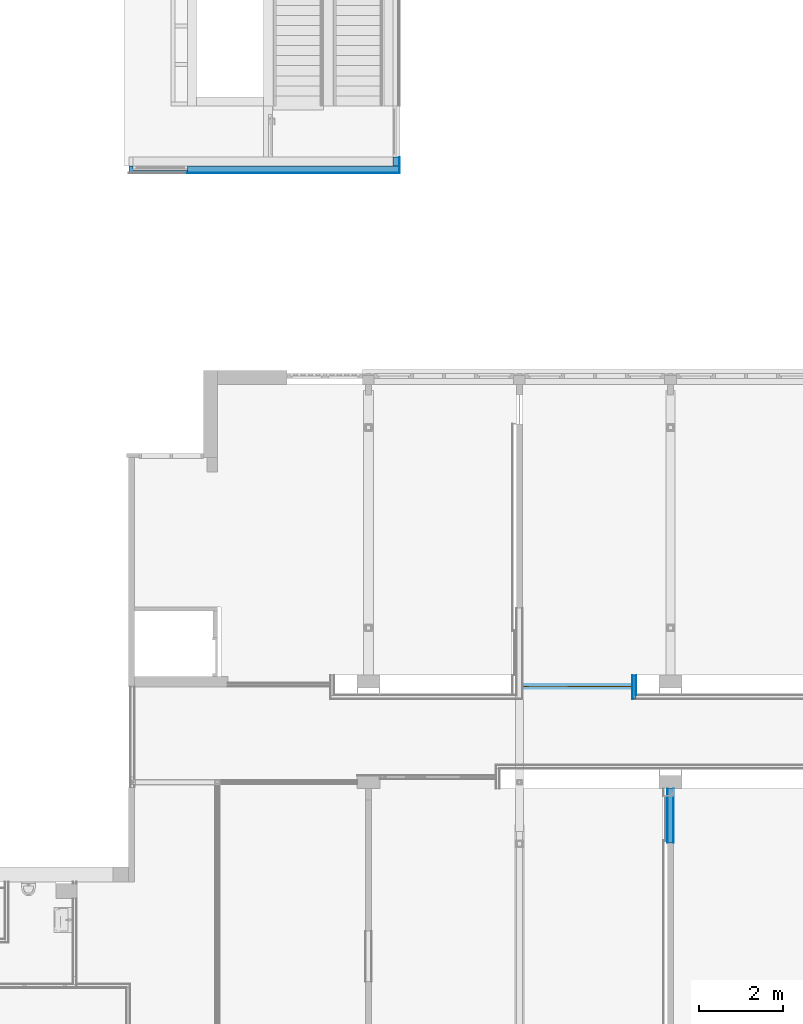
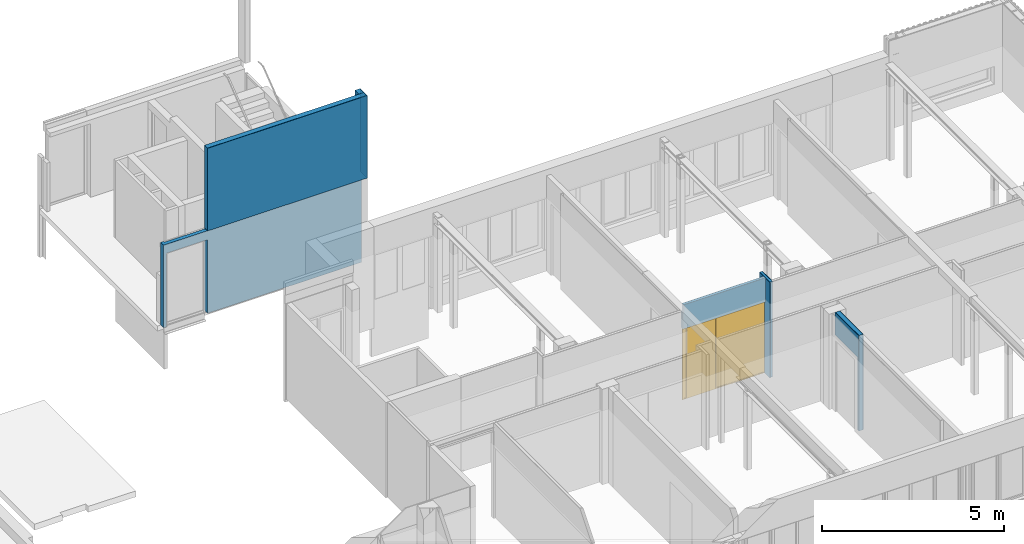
# One storey, part 67 of 99: 13 building element parts, 1 door, 3 openings, 6 elements without a shape of their own, plus 3 elements that do not belong to this part.
"""IFC2X3 building model written with IfcOpenShell, lengths in millimetres."""

from ifc_helpers import new_model, entity, si_unit, converted_unit, derived_unit, money_unit, direction, frame, origin_with_axes, place, context, subcontext, project, spatial, open_shell, faceted_brep, surface_model, material, type_object, element, fill, aggregate, save


model = new_model("IFC2X3")

# Units and contexts
model_context = context("Model", 3, precision=0.01, world=origin_with_axes(), true_north=direction((0.0, 1.0)))
body_context = subcontext(model_context, "Body", "Model", "MODEL_VIEW")
ifc_project = project(units=[si_unit("LENGTHUNIT", "METRE", prefix="MILLI"), si_unit("AREAUNIT", "SQUARE_METRE"), si_unit("VOLUMEUNIT", "CUBIC_METRE"), converted_unit("PLANEANGLEUNIT", "DEGREE", entity("IfcPlaneAngleMeasure", 0.0174532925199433), si_unit("PLANEANGLEUNIT", "RADIAN"), dimensions=[0, 0, 0, 0, 0, 0, 0]), money_unit("EUR"), converted_unit("TIMEUNIT", "Year", entity("IfcTimeMeasure", 31557600.0), si_unit("TIMEUNIT", "SECOND"), dimensions=[0, 0, 1, 0, 0, 0, 0]), si_unit("MASSUNIT", "GRAM", prefix="KILO"), si_unit("THERMODYNAMICTEMPERATUREUNIT", "DEGREE_CELSIUS"), si_unit("LUMINOUSINTENSITYUNIT", "LUMEN"), si_unit("ENERGYUNIT", "JOULE", prefix="MEGA"), derived_unit("THERMALCONDUCTANCEUNIT", [(si_unit("POWERUNIT", "WATT"), 1), (si_unit("LENGTHUNIT", "METRE"), -1), (si_unit("THERMODYNAMICTEMPERATUREUNIT", "KELVIN"), -1)]), derived_unit("SPECIFICHEATCAPACITYUNIT", [(si_unit("ENERGYUNIT", "JOULE"), 1), (si_unit("MASSUNIT", "GRAM", prefix="KILO"), -1), (si_unit("THERMODYNAMICTEMPERATUREUNIT", "KELVIN"), -1)]), derived_unit("MASSDENSITYUNIT", [(si_unit("MASSUNIT", "GRAM", prefix="KILO"), 1), (si_unit("VOLUMEUNIT", "CUBIC_METRE"), -1)])], contexts=[model_context])

# Site, building, storey
site_placement = place(None, origin_with_axes())
site = spatial("IfcSite", under=ifc_project, at=site_placement, Name="Site", CompositionType="ELEMENT")
building_placement = place(site_placement, origin_with_axes())
building = spatial("IfcBuilding", under=site, at=building_placement, Name="Naam gebouw", CompositionType="ELEMENT")
storey_placement = place(building_placement, frame((0.0, 0.0, 7650.0), z_axis=(0.0, 0.0, 1.0), x_axis=(1.0, 0.0, 0.0)))
storey = spatial("IfcBuildingStorey", under=building, at=storey_placement, Name="2e verdieping N", CompositionType="ELEMENT", Elevation=7650.0)

# Door
door_style = type_object("IfcDoorStyle", Name="D1 zl2 27", ConstructionType="NOTDEFINED", OperationType="USERDEFINED", ParameterTakesPrecedence=False, Sizeable=False)
wall_5_placement = place(storey_placement, frame((39674.99999999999, 20305.91242510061, 0.0), z_axis=(0.0, 0.0, 1.0), x_axis=(1.0, 0.0, 0.0)))
opening_2_placement = place(wall_5_placement, frame((1305.000000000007, 0.0, 0.0), z_axis=(0.0, 0.0, 1.0), x_axis=(1.0, 0.0, 0.0)))
door_placement = place(opening_2_placement, frame((-1305.000000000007, 0.0, 0.0), z_axis=(0.0, 0.0, 1.0), x_axis=(1.0, 0.0, 0.0)))
door = element("IfcDoor", 1, at=door_placement, inside=storey, type_object=door_style, Name="_Merk-x", ObjectType="DOOR", OverallHeight=2400.0, OverallWidth=2610.0, context=body_context, shape_type="SurfaceModel", body=[
    faceted_brep([(2610.000000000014, 9.99999999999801, 0.0), (2610.000000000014, -10.00000000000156, 0.0), (2580.000000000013, -10.00000000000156, 0.0), (2580.000000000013, 9.99999999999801, 0.0), (2610.000000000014, 9.99999999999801, 2369.999999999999), (2610.000000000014, -10.00000000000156, 2369.999999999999), (2580.000000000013, -10.00000000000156, 2369.999999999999), (2580.000000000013, -10.00000000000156, 30.00000000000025), (2580.000000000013, 9.99999999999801, 30.00000000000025), (2580.000000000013, 9.99999999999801, 2369.999999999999)], [[[0, 1, 2, 3]], [[4, 5, 1, 0]], [[1, 5, 6, 7, 2]], [[3, 2, 7, 8]], [[0, 3, 8, 9, 4]], [[9, 6, 5, 4]], [[8, 7, 6, 9]]]),
    faceted_brep([(1060.000000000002, -9.000000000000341, 0.0), (1060.000000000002, -10.00000000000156, 0.0), (1060.000000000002, -10.00000000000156, 2369.999999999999), (1060.000000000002, -9.000000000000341, 2369.999999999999), (1076.999999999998, -9.000000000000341, 0.0), (1076.999999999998, 9.99999999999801, 0.0), (1089.999999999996, 9.99999999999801, 0.0), (1089.999999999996, -10.00000000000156, 0.0), (1089.999999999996, -10.00000000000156, 30.00000000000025), (1089.999999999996, -10.00000000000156, 2369.999999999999), (1076.999999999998, -9.000000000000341, 2369.999999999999), (1089.999999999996, 9.99999999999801, 2369.999999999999), (1076.999999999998, 9.99999999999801, 2369.999999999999), (1089.999999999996, 9.99999999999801, 30.00000000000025)], [[[0, 1, 2, 3]], [[4, 5, 6, 7, 1, 0]], [[7, 8, 9, 2, 1]], [[10, 3, 2, 9, 11, 12]], [[10, 4, 0, 3]], [[12, 5, 4, 10]], [[12, 11, 13, 6, 5]], [[6, 13, 8, 7]], [[13, 11, 9, 8]]]),
    faceted_brep([(2580.000000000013, 9.99999999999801, 30.00000000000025), (2580.000000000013, -10.00000000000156, 30.00000000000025), (2580.000000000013, -10.00000000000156, 0.0), (2580.000000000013, 9.99999999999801, 0.0), (1089.999999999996, 9.99999999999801, 30.00000000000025), (1089.999999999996, -10.00000000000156, 30.00000000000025), (1089.999999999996, -10.00000000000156, 0.0), (1089.999999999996, 9.99999999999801, 0.0)], [[[0, 1, 2, 3]], [[4, 5, 1, 0]], [[1, 5, 6, 2]], [[3, 2, 6, 7]], [[0, 3, 7, 4]], [[7, 6, 5, 4]]]),
    faceted_brep([(0.0, 9.99999999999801, 0.0), (0.0, -10.00000000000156, 0.0), (0.0, -10.00000000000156, 2369.999999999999), (0.0, 9.99999999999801, 2369.999999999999), (30.00000000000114, 9.99999999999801, 0.0), (30.00000000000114, -10.00000000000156, 0.0), (30.00000000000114, -10.00000000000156, 30.00000000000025), (30.00000000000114, -10.00000000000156, 2369.999999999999), (30.00000000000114, 9.99999999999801, 2369.999999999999), (30.00000000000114, 9.99999999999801, 30.00000000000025)], [[[0, 1, 2, 3]], [[4, 5, 1, 0]], [[1, 5, 6, 7, 2]], [[3, 2, 7, 8]], [[0, 3, 8, 9, 4]], [[9, 6, 5, 4]], [[8, 7, 6, 9]]]),
    faceted_brep([(143.0000000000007, -9.000000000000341, 2369.999999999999), (143.0000000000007, 9.99999999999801, 2369.999999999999), (130.0000000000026, 9.99999999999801, 2369.999999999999), (130.0000000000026, -10.00000000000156, 2369.999999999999), (159.9999999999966, -10.00000000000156, 2369.999999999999), (159.9999999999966, -9.000000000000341, 2369.999999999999), (143.0000000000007, -9.000000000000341, 0.0), (143.0000000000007, 9.99999999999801, 0.0), (130.0000000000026, 9.99999999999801, 0.0), (130.0000000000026, 9.99999999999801, 30.00000000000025), (130.0000000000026, -10.00000000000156, 30.00000000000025), (159.9999999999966, -10.00000000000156, 0.0), (130.0000000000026, -10.00000000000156, 0.0), (159.9999999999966, -9.000000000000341, 0.0)], [[[0, 1, 2, 3, 4, 5]], [[0, 6, 7, 1]], [[7, 8, 9, 2, 1]], [[2, 9, 10, 3]], [[11, 4, 3, 10, 12]], [[5, 4, 11, 13]], [[5, 13, 6, 0]], [[6, 13, 11, 12, 8, 7]], [[9, 8, 12, 10]]]),
    faceted_brep([(130.0000000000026, 9.99999999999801, 30.00000000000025), (130.0000000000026, -10.00000000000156, 30.00000000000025), (130.0000000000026, -10.00000000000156, 0.0), (130.0000000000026, 9.99999999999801, 0.0), (30.00000000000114, 9.99999999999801, 30.00000000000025), (30.00000000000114, -10.00000000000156, 30.00000000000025), (30.00000000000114, -10.00000000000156, 0.0), (30.00000000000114, 9.99999999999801, 0.0)], [[[0, 1, 2, 3]], [[4, 5, 1, 0]], [[1, 5, 6, 2]], [[3, 2, 6, 7]], [[0, 3, 7, 4]], [[7, 6, 5, 4]]]),
    faceted_brep([(1076.999999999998, 9.99999999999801, 2387.0), (143.0000000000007, 9.99999999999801, 2387.0), (143.0000000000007, 9.99999999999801, 2369.999999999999), (130.0000000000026, 9.99999999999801, 2369.999999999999), (30.00000000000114, 9.99999999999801, 2369.999999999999), (0.0, 9.99999999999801, 2369.999999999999), (0.0, 9.99999999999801, 2400.0), (2610.000000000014, 9.99999999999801, 2400.0), (2610.000000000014, 9.99999999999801, 2369.999999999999), (2580.000000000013, 9.99999999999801, 2369.999999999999), (1089.999999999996, 9.99999999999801, 2369.999999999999), (1076.999999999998, 9.99999999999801, 2369.999999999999), (1076.999999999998, -9.000000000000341, 2387.0), (143.0000000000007, -9.000000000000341, 2387.0), (143.0000000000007, -9.000000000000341, 2369.999999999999), (159.9999999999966, -9.000000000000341, 2369.999999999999), (159.9999999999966, -10.00000000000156, 2369.999999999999), (130.0000000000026, -10.00000000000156, 2369.999999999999), (30.00000000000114, -10.00000000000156, 2369.999999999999), (0.0, -10.00000000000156, 2369.999999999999), (0.0, -10.00000000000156, 2400.0), (2610.000000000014, -10.00000000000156, 2400.0), (2610.000000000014, -10.00000000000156, 2369.999999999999), (2580.000000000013, -10.00000000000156, 2369.999999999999), (1089.999999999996, -10.00000000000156, 2369.999999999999), (1076.999999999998, -9.000000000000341, 2369.999999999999), (1060.000000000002, -10.00000000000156, 2369.999999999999)], [[[0, 1, 2, 3, 4, 5, 6, 7, 8, 9, 10, 11]], [[0, 12, 13, 1]], [[1, 13, 14, 2]], [[14, 15, 16, 17, 18, 4, 3, 2]], [[5, 4, 18, 19]], [[6, 5, 19, 20]], [[7, 6, 20, 21]], [[8, 7, 21, 22]], [[9, 8, 22, 23]], [[10, 9, 23, 24]], [[25, 11, 10, 24, 26, 16, 15]], [[11, 25, 12, 0]], [[14, 13, 12, 25, 15]], [[18, 17, 16, 26, 24, 23, 22, 21, 20, 19]]]),
    faceted_brep([(143.0000000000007, 0.9999999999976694, 0.0), (1076.999999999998, 0.9999999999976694, 0.0), (1076.999999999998, -9.000000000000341, 0.0), (143.0000000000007, -9.000000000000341, 0.0), (143.0000000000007, 0.9999999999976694, 2387.0), (1076.999999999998, 0.9999999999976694, 2387.0), (1076.999999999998, -9.000000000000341, 2387.0), (143.0000000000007, -9.000000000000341, 2387.0)], [[[0, 1, 2, 3]], [[0, 4, 5, 1]], [[1, 5, 6, 2]], [[3, 2, 6, 7]], [[4, 0, 3, 7]], [[5, 4, 7, 6]]]),
    surface_model("IfcShellBasedSurfaceModel", [(2580.000000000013, 8.999999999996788, 30.00000000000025), (1089.999999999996, 8.999999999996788, 30.00000000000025), (1089.999999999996, 8.999999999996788, 2369.999999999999), (2580.000000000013, 8.999999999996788, 2369.999999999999)], [open_shell([[[0, 1, 2, 3]]])]),
    surface_model("IfcShellBasedSurfaceModel", [(2580.000000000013, 0.9999999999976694, 30.00000000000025), (2580.000000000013, 0.9999999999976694, 2369.999999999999), (1089.999999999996, 0.9999999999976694, 2369.999999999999), (1089.999999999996, 0.9999999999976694, 30.00000000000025)], [open_shell([[[0, 1, 2, 3]]])]),
    surface_model("IfcShellBasedSurfaceModel", [(130.0000000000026, 8.999999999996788, 30.00000000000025), (30.00000000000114, 8.999999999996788, 30.00000000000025), (30.00000000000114, 8.999999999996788, 2369.999999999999), (130.0000000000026, 8.999999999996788, 2369.999999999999)], [open_shell([[[0, 1, 2, 3]]])]),
    surface_model("IfcShellBasedSurfaceModel", [(130.0000000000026, 0.9999999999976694, 30.00000000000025), (130.0000000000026, 0.9999999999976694, 2369.999999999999), (30.00000000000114, 0.9999999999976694, 2369.999999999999), (30.00000000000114, 0.9999999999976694, 30.00000000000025)], [open_shell([[[0, 1, 2, 3]]])]),
])

# Wall, building element parts
wall_type_1 = type_object("IfcWallType", Name="Basic Wall:41_WA_stucwerk op iso 170mm", PredefinedType="STANDARD")
wall_1_placement = place(storey_placement, frame((36665.50000002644, 32925.91242631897, 1039.999999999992), z_axis=(0.0, 0.0, 1.0), x_axis=(0.0, -1.0, 0.0)))
wall_1 = element("IfcWall", 2, at=wall_1_placement, inside=storey, type_object=wall_type_1, Name="Basic Wall:41_WA_stucwerk op iso 170mm")
ifc_material_1 = material(Name="Verflaag ral 7044  Zijdengrijs Isostuc")
building_element_part_1_placement = place(wall_1_placement, origin_with_axes())
building_element_part_1 = element("IfcBuildingElementPart", 3, at=building_element_part_1_placement, material=ifc_material_1, Name="Verflaag ral 7044  Zijdengrijs Isostuc", context=body_context, shape_type="Brep", body=[
    faceted_brep([(384.0000000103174, 85.50000001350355, 0.0), (384.0000000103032, 84.50000001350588, 0.0), (0.0, 84.50000001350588, 0.0), (0.0, 85.50000001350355, 0.0), (384.0000000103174, 85.50000001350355, 2770.000000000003), (384.0000000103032, 84.50000001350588, 2770.000000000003), (0.0, 84.50000001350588, 2770.000000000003), (0.0, 85.50000001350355, 2770.000000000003)], [[[0, 1, 2, 3]], [[1, 0, 4, 5]], [[1, 5, 6, 2]], [[7, 3, 2, 6]], [[4, 0, 3, 7]], [[5, 4, 7, 6]]]),
])
ifc_material_2 = material(Name="stucwerk - gevel gebouw V RAL 7044")
building_element_part_2_placement = place(wall_1_placement, origin_with_axes())
building_element_part_2 = element("IfcBuildingElementPart", 4, at=building_element_part_2_placement, material=ifc_material_2, Name="stucwerk - gevel gebouw V RAL 7044", context=body_context, shape_type="Brep", body=[
    faceted_brep([(374.0000000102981, 84.50000001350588, 0.0), (374.0000000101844, 74.50000001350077, 0.0), (0.0, 74.50000001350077, 0.0), (0.0, 84.50000001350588, 0.0), (374.0000000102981, 84.50000001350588, 2770.000000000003), (374.0000000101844, 74.50000001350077, 2770.000000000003), (0.0, 74.50000001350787, 2770.000000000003), (0.0, 84.50000001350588, 2770.000000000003)], [[[0, 1, 2, 3]], [[1, 0, 4, 5]], [[1, 5, 6, 2]], [[7, 3, 2, 6]], [[4, 0, 3, 7]], [[5, 4, 7, 6]]]),
])

# Wall, building element part
wall_2_placement = place(storey_placement, frame((31685.01028266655, 32626.41242629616, 1039.999999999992), z_axis=(0.0, 0.0, 1.0), x_axis=(1.0, 0.0, 0.0)))
wall_2 = element("IfcWall", 5, at=wall_2_placement, inside=storey, type_object=wall_type_1, Name="Basic Wall:41_WA_stucwerk op iso 170mm")
building_element_part_3_placement = place(wall_2_placement, origin_with_axes())
building_element_part_3 = element("IfcBuildingElementPart", 6, at=building_element_part_3_placement, material=ifc_material_2, Name="stucwerk - gevel gebouw V RAL 7044", context=body_context, shape_type="Brep", body=[
    faceted_brep([(5064.989717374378, -84.49999986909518, 0.0), (9.876544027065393e-10, -84.49999992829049, 0.0), (8.704148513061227e-10, -74.49999992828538, 0.0), (5064.989717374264, -74.49999986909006, 0.0), (5064.989717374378, -84.49999986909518, 2770.000000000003), (9.876544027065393e-10, -84.49999992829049, 2770.000000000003), (8.704148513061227e-10, -74.49999992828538, 2770.000000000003), (5064.989717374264, -74.49999986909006, 2770.000000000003)], [[[0, 1, 2, 3]], [[4, 5, 1, 0]], [[2, 1, 5, 6]], [[3, 2, 6, 7]], [[3, 7, 4, 0]], [[7, 6, 5, 4]]]),
])

# Building element part
ifc_material_3 = material(Name="isolatie_080_1-100")
building_element_part_4_placement = place(wall_1_placement, origin_with_axes())
building_element_part_4 = element("IfcBuildingElementPart", 7, at=building_element_part_4_placement, material=ifc_material_3, Name="isolatie_080_1-100", context=body_context, shape_type="Brep", body=[
    faceted_brep([(214.0000000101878, 74.50000001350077, 0.0), (214.000000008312, -85.49999998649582, 0.0), (0.0, -85.49999998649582, 0.0), (0.0, 74.50000001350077, 0.0), (214.0000000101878, 74.50000001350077, 2770.000000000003), (214.000000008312, -85.49999998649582, 2770.000000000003), (0.0, -85.49999998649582, 2770.000000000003), (0.0, 74.50000001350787, 2770.000000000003)], [[[0, 1, 2, 3]], [[1, 0, 4, 5]], [[1, 5, 6, 2]], [[7, 3, 2, 6]], [[4, 0, 3, 7]], [[5, 4, 7, 6]]]),
])

aggregate(wall_1, [building_element_part_1, building_element_part_2, building_element_part_4])

building_element_part_5_placement = place(wall_2_placement, origin_with_axes())
building_element_part_5 = element("IfcBuildingElementPart", 8, at=building_element_part_5_placement, material=ifc_material_3, Name="isolatie_080_1-100", context=body_context, shape_type="Brep", body=[
    faceted_brep([(5054.98971737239, 85.50000013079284, 0.0), (5054.989717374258, -74.49999986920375, 0.0), (8.704148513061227e-10, -74.49999992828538, 0.0), (-9.983125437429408e-10, 85.50000007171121, 0.0), (5054.98971737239, 85.50000013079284, 2770.000000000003), (5054.989717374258, -74.49999986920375, 2770.000000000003), (8.704148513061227e-10, -74.49999992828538, 2770.000000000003), (-9.983125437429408e-10, 85.50000007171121, 2770.000000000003)], [[[0, 1, 2, 3]], [[1, 0, 4, 5]], [[1, 5, 6, 2]], [[7, 3, 2, 6]], [[4, 0, 3, 7]], [[5, 4, 7, 6]]]),
])

building_element_part_6_placement = place(wall_2_placement, origin_with_axes())
building_element_part_6 = element("IfcBuildingElementPart", 9, at=building_element_part_6_placement, material=ifc_material_1, Name="Verflaag ral 7044  Zijdengrijs Isostuc", context=body_context, shape_type="Brep", body=[
    faceted_brep([(5065.989717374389, -85.49999986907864, 0.0), (9.983125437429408e-10, -85.49999992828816, 0.0), (9.876544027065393e-10, -84.49999992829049, 0.0), (5065.989717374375, -84.49999986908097, 0.0), (5065.989717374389, -85.49999986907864, 2770.000000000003), (9.983125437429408e-10, -85.49999992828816, 2770.000000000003), (9.876544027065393e-10, -84.49999992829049, 2770.000000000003), (5065.989717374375, -84.49999986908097, 2770.000000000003)], [[[0, 1, 2, 3]], [[4, 5, 1, 0]], [[2, 1, 5, 6]], [[3, 2, 6, 7]], [[3, 7, 4, 0]], [[7, 6, 5, 4]]]),
])

aggregate(wall_2, [building_element_part_3, building_element_part_5, building_element_part_6])

# Wall, building element parts
wall_type_2 = type_object("IfcWallType", Name="Metalstud iso 100 100", PredefinedType="NOTDEFINED")
wall_3_placement = place(storey_placement, frame((42385.0, 20580.91242510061, 0.0), z_axis=(0.0, 0.0, 1.0), x_axis=(0.0, -1.0, 0.0)))
wall_3 = element("IfcWall", 10, at=wall_3_placement, inside=storey, type_object=wall_type_2, Name="_Wand-x")
ifc_material_4 = material(Name="Gipsplaat")
building_element_part_7_placement = place(wall_3_placement, origin_with_axes())
building_element_part_7 = element("IfcBuildingElementPart", 11, at=building_element_part_7_placement, material=ifc_material_4, Name="Gipsplaat", context=body_context, shape_type="Brep", body=[
    faceted_brep([(487.4999999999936, -12.50000000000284, 0.0), (0.0, -12.50000000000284, 0.0), (0.0, 0.0, 0.0), (487.4999999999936, 0.0, 0.0), (487.4999999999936, -12.50000000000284, 3199.999999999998), (0.0, -12.50000000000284, 3199.999999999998), (0.0, 0.0, 3199.999999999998), (487.4999999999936, 0.0, 3199.999999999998)], [[[0, 1, 2, 3]], [[4, 5, 1, 0]], [[2, 1, 5, 6]], [[3, 2, 6, 7]], [[3, 7, 4, 0]], [[7, 6, 5, 4]]]),
])
ifc_material_5 = material(Name="Isolatie - Steenwol LSW")
building_element_part_8_placement = place(wall_3_placement, origin_with_axes())
building_element_part_8 = element("IfcBuildingElementPart", 12, at=building_element_part_8_placement, material=ifc_material_5, Name="Isolatie - Steenwol LSW", context=body_context, shape_type="Brep", body=[
    faceted_brep([(562.499999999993, -87.49999999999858, 0.0), (0.0, -87.49999999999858, 0.0), (0.0, -12.50000000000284, 0.0), (562.499999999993, -12.50000000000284, 0.0), (562.499999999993, -87.49999999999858, 3199.999999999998), (0.0, -87.49999999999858, 3199.999999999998), (0.0, -12.50000000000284, 3199.999999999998), (562.499999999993, -12.50000000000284, 3199.999999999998)], [[[0, 1, 2, 3]], [[4, 5, 1, 0]], [[2, 1, 5, 6]], [[3, 2, 6, 7]], [[3, 7, 4, 0]], [[7, 6, 5, 4]]]),
])
building_element_part_9_placement = place(wall_3_placement, origin_with_axes())
building_element_part_9 = element("IfcBuildingElementPart", 13, at=building_element_part_9_placement, material=ifc_material_4, Name="Gipsplaat", context=body_context, shape_type="Brep", body=[
    faceted_brep([(574.9999999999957, -100.0000000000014, 0.0), (0.0, -100.0000000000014, 0.0), (0.0, -87.49999999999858, 0.0), (574.9999999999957, -87.49999999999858, 0.0), (574.9999999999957, -100.0000000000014, 3199.999999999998), (0.0, -100.0000000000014, 3199.999999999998), (0.0, -87.49999999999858, 3199.999999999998), (574.9999999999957, -87.49999999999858, 3199.999999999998)], [[[0, 1, 2, 3]], [[4, 5, 1, 0]], [[2, 1, 5, 6]], [[3, 2, 6, 7]], [[3, 7, 4, 0]], [[7, 6, 5, 4]]]),
])
aggregate(wall_3, [building_element_part_7, building_element_part_8, building_element_part_9])

# Wall, opening, building element parts
wall_type_3 = type_object("IfcWallType", Name="Metalstud iso 150 150", PredefinedType="NOTDEFINED")
wall_4_placement = place(storey_placement, frame((43199.99999999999, 16580.91242510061, 0.0), z_axis=(0.0, 0.0, 1.0), x_axis=(0.0, 1.0, 0.0)))
wall_4 = element("IfcWall", 14, at=wall_4_placement, inside=storey, type_object=wall_type_3, Name="_Wand-x")
opening_1_placement = place(wall_4_placement, frame((677.4999999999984, 0.0, 0.0), z_axis=(0.0, 0.0, 1.0), x_axis=(1.0, 0.0, 0.0)))
element("IfcOpeningElement", 15, at=opening_1_placement, cuts=wall_4, Name="_Merk-x", context=body_context, shape_type="Brep", body=[
    faceted_brep([(612.5000000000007, 76.00000000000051, 2440.0), (612.5000000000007, 76.00000000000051, 0.0), (-612.5000000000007, 76.00000000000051, 0.0), (-612.5000000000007, 76.00000000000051, 2440.0), (612.5000000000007, -76.00000000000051, 2440.0), (612.5000000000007, -76.00000000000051, 0.0), (-612.5000000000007, -76.00000000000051, 0.0), (-612.5000000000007, -76.00000000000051, 2440.0)], [[[0, 1, 2, 3]], [[4, 5, 1, 0]], [[5, 6, 2, 1]], [[6, 7, 3, 2]], [[7, 4, 0, 3]], [[6, 5, 4, 7]]]),
])
building_element_part_10_placement = place(wall_4_placement, origin_with_axes())
building_element_part_10 = element("IfcBuildingElementPart", 16, at=building_element_part_10_placement, material=ifc_material_4, Name="Gipsplaat", context=body_context, shape_type="Brep", body=[
    faceted_brep([(1129.999999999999, 62.5, 2440.0), (1289.999999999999, 62.5, 2440.0), (1289.999999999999, 62.5, 3199.999999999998), (0.0, 62.5, 3199.999999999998), (0.0, 62.5, 0.0), (64.99999999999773, 62.5, 0.0), (64.99999999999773, 62.5, 2440.0), (1105.0, 62.5, 2440.0), (1289.999999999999, 75.00000000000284, 2440.0), (1129.999999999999, 75.00000000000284, 2440.0), (1289.999999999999, 75.00000000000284, 3199.999999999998), (0.0, 75.00000000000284, 3199.999999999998), (0.0, 75.00000000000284, 0.0), (64.99999999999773, 75.00000000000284, 0.0), (64.99999999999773, 75.00000000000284, 2440.0), (1105.0, 75.00000000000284, 2440.0)], [[[0, 1, 2, 3, 4, 5, 6, 7]], [[8, 1, 0, 9]], [[1, 8, 10, 2]], [[3, 2, 10, 11]], [[4, 3, 11, 12]], [[13, 5, 4, 12]], [[6, 5, 13, 14]], [[15, 7, 6, 14]], [[9, 0, 7, 15]], [[8, 9, 15, 14, 13, 12, 11, 10]]]),
])
building_element_part_11_placement = place(wall_4_placement, origin_with_axes())
building_element_part_11 = element("IfcBuildingElementPart", 17, at=building_element_part_11_placement, material=ifc_material_4, Name="Gipsplaat", context=body_context, shape_type="Brep", body=[
    faceted_brep([(1129.999999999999, -75.00000000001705, 2440.0), (1289.999999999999, -75.00000000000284, 2440.0), (1289.999999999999, -75.00000000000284, 3199.999999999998), (0.0, -75.00000000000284, 3199.999999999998), (0.0, -75.00000000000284, 0.0), (64.99999999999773, -75.00000000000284, 0.0), (64.99999999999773, -75.00000000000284, 2440.0), (1105.0, -75.00000000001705, 2440.0), (1289.999999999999, -62.5, 2440.0), (1129.999999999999, -62.5, 2440.0), (1289.999999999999, -62.5, 3199.999999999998), (0.0, -62.5, 3199.999999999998), (0.0, -62.5, 0.0), (64.99999999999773, -62.5, 0.0), (64.99999999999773, -62.5, 2440.0), (1105.0, -62.5, 2440.0)], [[[0, 1, 2, 3, 4, 5, 6, 7]], [[8, 1, 0, 9]], [[1, 8, 10, 2]], [[3, 2, 10, 11]], [[4, 3, 11, 12]], [[13, 5, 4, 12]], [[6, 5, 13, 14]], [[15, 7, 6, 14]], [[9, 0, 7, 15]], [[8, 9, 15, 14, 13, 12, 11, 10]]]),
])
building_element_part_12_placement = place(wall_4_placement, origin_with_axes())
building_element_part_12 = element("IfcBuildingElementPart", 18, at=building_element_part_12_placement, material=ifc_material_5, Name="Isolatie - Steenwol LSW", context=body_context, shape_type="Brep", body=[
    faceted_brep([(1129.999999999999, -62.5, 2440.0), (1289.999999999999, -62.5, 2440.0), (1289.999999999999, -62.5, 3199.999999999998), (0.0, -62.5, 3199.999999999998), (0.0, -62.5, 0.0), (64.99999999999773, -62.5, 0.0), (64.99999999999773, -62.5, 2440.0), (1105.0, -62.5, 2440.0), (1289.999999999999, 62.5, 2440.0), (1129.999999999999, 62.5, 2440.0), (1289.999999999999, 62.5, 3199.999999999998), (0.0, 62.5, 3199.999999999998), (0.0, 62.5, 0.0), (64.99999999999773, 62.5, 0.0), (64.99999999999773, 62.5, 2440.0), (1105.0, 62.5, 2440.0)], [[[0, 1, 2, 3, 4, 5, 6, 7]], [[8, 1, 0, 9]], [[1, 8, 10, 2]], [[3, 2, 10, 11]], [[4, 3, 11, 12]], [[13, 5, 4, 12]], [[6, 5, 13, 14]], [[15, 7, 6, 14]], [[9, 0, 7, 15]], [[8, 9, 15, 14, 13, 12, 11, 10]]]),
])
aggregate(wall_4, [building_element_part_10, building_element_part_11, building_element_part_12])

# Wall, opening
wall_5 = element("IfcWall", 19, at=wall_5_placement, inside=storey, type_object=wall_type_2, Name="_Wand-x")
opening_2 = element("IfcOpeningElement", 20, at=opening_2_placement, cuts=wall_5, Name="_Merk-x", context=body_context, shape_type="Brep", body=[
    faceted_brep([(1305.000000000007, -10.00000000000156, 0.0), (1305.000000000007, -10.00000000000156, 2400.0), (1305.000000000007, -51.00000000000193, 2400.0), (1305.000000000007, -51.00000000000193, 0.0), (1305.000000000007, 51.00000000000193, 0.0), (1305.000000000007, 51.00000000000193, 2400.0), (-1305.000000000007, -10.00000000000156, 2400.0), (-1305.000000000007, -51.00000000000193, 2400.0), (-1305.000000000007, 51.00000000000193, 2400.0), (-1305.000000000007, -51.00000000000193, 0.0), (-1305.000000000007, -10.00000000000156, 0.0), (-1305.000000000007, 51.00000000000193, 0.0)], [[[0, 1, 2, 3]], [[1, 0, 4, 5]], [[6, 7, 2, 1, 5, 8]], [[7, 9, 3, 2]], [[0, 3, 9, 10, 11, 4]], [[5, 4, 11, 8]], [[6, 10, 9, 7]], [[10, 6, 8, 11]]]),
])

fill(opening_2, door)

# Building element part
building_element_part_13_placement = place(wall_5_placement, origin_with_axes())
building_element_part_13 = element("IfcBuildingElementPart", 21, at=building_element_part_13_placement, material=ifc_material_4, Name="Gipsplaat", context=body_context, shape_type="Brep", body=[
    faceted_brep([(2610.000000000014, 37.50000000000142, 2400.0), (2610.000000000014, 50.00000000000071, 2400.0), (2610.000000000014, 50.00000000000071, 3199.999999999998), (2610.000000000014, 37.50000000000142, 3199.999999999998), (0.0, 50.00000000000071, 2400.0), (0.0, 37.50000000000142, 2400.0), (0.0, 50.00000000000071, 2949.999999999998), (25.00000003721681, 50.00000000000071, 2949.999999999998), (25.00000003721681, 50.00000000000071, 3199.999999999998), (25.00000003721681, 37.50000000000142, 3199.999999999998), (25.00000003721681, 37.50000000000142, 2949.999999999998), (0.0, 37.50000000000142, 2949.999999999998)], [[[0, 1, 2, 3]], [[4, 1, 0, 5]], [[1, 4, 6, 7, 8, 2]], [[9, 3, 2, 8]], [[5, 0, 3, 9, 10, 11]], [[4, 5, 11, 6]], [[6, 11, 10, 7]], [[8, 7, 10, 9]]]),
])

building_element_part_14_placement = place(wall_5_placement, origin_with_axes())
building_element_part_14 = element("IfcBuildingElementPart", 22, at=building_element_part_14_placement, material=ifc_material_4, Name="Gipsplaat", context=body_context, shape_type="Brep", body=[
    faceted_brep([(2610.000000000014, -50.00000000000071, 2400.0), (2610.000000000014, -37.50000000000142, 2400.0), (2610.000000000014, -37.50000000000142, 3199.999999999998), (2610.000000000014, -50.00000000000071, 3199.999999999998), (0.0, -37.50000000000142, 2400.0), (0.0, -50.00000000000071, 2400.0), (0.0, -37.50000000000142, 2949.999999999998), (25.00000003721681, -37.50000000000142, 2949.999999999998), (25.00000003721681, -37.50000000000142, 3199.999999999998), (25.00000003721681, -50.00000000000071, 3199.999999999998), (25.00000003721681, -50.00000000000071, 2949.999999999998), (0.0, -50.00000000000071, 2949.999999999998)], [[[0, 1, 2, 3]], [[4, 1, 0, 5]], [[1, 4, 6, 7, 8, 2]], [[9, 3, 2, 8]], [[5, 0, 3, 9, 10, 11]], [[4, 5, 11, 6]], [[6, 11, 10, 7]], [[8, 7, 10, 9]]]),
])

building_element_part_15_placement = place(wall_5_placement, origin_with_axes())
building_element_part_15 = element("IfcBuildingElementPart", 23, at=building_element_part_15_placement, material=ifc_material_5, Name="Isolatie - Steenwol LSW", context=body_context, shape_type="Brep", body=[
    faceted_brep([(2610.000000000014, -10.00000000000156, 2400.0), (2610.000000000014, 37.50000000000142, 2400.0), (2610.000000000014, 37.50000000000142, 3199.999999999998), (2610.000000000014, -37.50000000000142, 3199.999999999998), (2610.000000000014, -37.50000000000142, 2400.0), (0.0, -10.00000000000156, 2400.0), (0.0, 37.50000000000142, 2400.0), (0.0, -37.50000000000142, 2400.0), (0.0, 37.50000000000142, 2949.999999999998), (25.00000003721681, 37.50000000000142, 2949.999999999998), (25.00000003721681, 37.50000000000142, 3199.999999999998), (25.00000003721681, -37.50000000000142, 3199.999999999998), (25.00000003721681, -37.50000000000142, 2949.999999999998), (0.0, -37.50000000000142, 2949.999999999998)], [[[0, 1, 2, 3, 4]], [[5, 6, 1, 0, 4, 7]], [[1, 6, 8, 9, 10, 2]], [[3, 2, 10, 11]], [[11, 12, 13, 7, 4, 3]], [[6, 5, 7, 13, 8]], [[13, 12, 9, 8]], [[9, 12, 11, 10]]]),
])

aggregate(wall_5, [building_element_part_13, building_element_part_14, building_element_part_15])

# Wall, opening, building element part
wall_6_placement = place(storey_placement, frame((30291.05313860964, 32626.41242629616, -1729.99999999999), z_axis=(0.0, 0.0, 1.0), x_axis=(1.0, 0.0, 0.0)))
wall_6 = element("IfcWall", 24, at=wall_6_placement, inside=storey, type_object=wall_type_1, Name="Basic Wall:41_WA_stucwerk op iso 170mm")
opening_3_placement = place(wall_6_placement, frame((-30291.05313860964, -32626.41242629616, -5920.000000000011), z_axis=(0.0, 0.0, 1.0), x_axis=(1.0, 0.0, 0.0)))
element("IfcOpeningElement", 25, at=opening_3_placement, cuts=wall_6, Name="Basic Wall:41_WA_stucwerk op iso 170mm", context=body_context, shape_type="Brep", body=[
    faceted_brep([(30391.00000002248, 32388.51242628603, 5919.999999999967), (30391.00000002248, 32388.51242628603, 8390.000000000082), (30391.00000002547, 32864.31242628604, 8390.000000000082), (30391.00000002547, 32864.31242628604, 5919.999999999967), (31685.01028263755, 32388.51242627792, 5919.999999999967), (31685.01028263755, 32388.51242627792, 8390.000000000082), (31685.01028264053, 32864.31242627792, 8390.000000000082), (31685.01028264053, 32864.31242627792, 5919.999999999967)], [[[0, 1, 2, 3]], [[0, 4, 5, 1]], [[1, 5, 6, 2]], [[3, 2, 6, 7]], [[4, 0, 3, 7]], [[5, 4, 7, 6]]]),
])
building_element_part_16_placement = place(wall_6_placement, origin_with_axes())
building_element_part_16 = element("IfcBuildingElementPart", 26, at=building_element_part_16_placement, material=ifc_material_3, Name="isolatie_080_1-100", context=body_context, shape_type="Brep", body=[
    faceted_brep([(1393.949059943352, 85.50030896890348, 2469.999999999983), (1393.949059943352, 85.50030896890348, 2769.999999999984), (6288.946861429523, 85.50000007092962, 2770.000000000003), (6288.946861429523, 85.50000007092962, 0.0), (1393.957144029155, 85.50000002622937, 0.0), (1393.949059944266, -14.49969103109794, 2769.999999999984), (1393.949059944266, -14.49969103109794, 2469.999999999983), (1393.949059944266, -14.49969103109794, 2475.899999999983), (1393.949059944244, -12.15654528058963, 2481.556854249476), (1393.949059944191, -6.499691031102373, 2483.899999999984), (1393.949059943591, 59.50030896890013, 2487.199999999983), (1393.949059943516, 67.5003089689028, 2489.343593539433), (1393.949059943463, 73.35671542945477, 2495.199999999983), (1393.949059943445, 75.50030896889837, 2503.199999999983), (1393.949059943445, 75.50030896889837, 2736.799999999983), (1393.949059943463, 73.35671542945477, 2744.799999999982), (1393.949059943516, 67.5003089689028, 2750.656406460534), (1393.949059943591, 59.50030896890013, 2752.799999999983), (1393.949059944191, -6.499691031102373, 2756.099999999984), (1393.949059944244, -12.15654528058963, 2758.443145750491), (1393.949059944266, -14.49969103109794, 2764.099999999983), (99.94686141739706, -14.49969104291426, 2769.999999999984), (99.94686141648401, 85.50030895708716, 2769.999999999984), (-7.815970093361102e-10, 85.50000001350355, 2770.000000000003), (6.785683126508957e-10, -74.49999998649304, 2770.000000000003), (6288.946861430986, -74.49999992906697, 2770.000000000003), (6288.946861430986, -74.49999992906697, 0.0), (1393.957144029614, -74.49999997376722, 0.0), (1393.957144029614, -74.49999997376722, 2470.000000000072), (99.94686141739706, -14.49969104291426, 2469.999999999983), (99.94686141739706, -14.49969104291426, 2475.899999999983), (99.94686141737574, -12.15654529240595, 2481.556854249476), (99.94686141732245, -6.499691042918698, 2483.899999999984), (99.94686141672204, 59.5003089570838, 2487.199999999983), (99.94686141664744, 67.50030895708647, 2489.343593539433), (99.94686141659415, 73.35671541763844, 2495.199999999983), (99.94686141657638, 75.50030895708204, 2503.199999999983), (99.94686141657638, 75.50030895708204, 2736.799999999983), (99.94686141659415, 73.35671541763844, 2744.799999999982), (99.94686141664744, 67.50030895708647, 2750.656406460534), (99.94686141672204, 59.5003089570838, 2752.799999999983), (99.94686141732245, -6.499691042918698, 2756.099999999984), (99.94686141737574, -12.15654529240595, 2758.443145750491), (99.94686141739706, -14.49969104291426, 2764.099999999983), (99.94686141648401, 85.50030895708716, 2469.999999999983), (99.94686141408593, 85.50000001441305, 0.0), (-7.815970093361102e-10, 85.50000001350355, 0.0), (6.785683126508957e-10, -74.49999998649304, 0.0), (99.94686141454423, -74.49999998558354, 2470.000000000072), (99.94686141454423, -74.49999998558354, 0.0)], [[[0, 1, 2, 3, 4]], [[5, 1, 0, 6, 7, 8, 9, 10, 11, 12, 13, 14, 15, 16, 17, 18, 19, 20]], [[21, 22, 23, 24, 25, 2, 1, 5]], [[3, 2, 25, 26]], [[26, 27, 4, 3]], [[6, 0, 4, 27, 28]], [[6, 29, 30, 7]], [[31, 8, 7, 30]], [[32, 9, 8, 31]], [[33, 10, 9, 32]], [[34, 11, 10, 33]], [[35, 12, 11, 34]], [[36, 13, 12, 35]], [[37, 14, 13, 36]], [[38, 15, 14, 37]], [[39, 16, 15, 38]], [[40, 17, 16, 39]], [[41, 18, 17, 40]], [[42, 19, 18, 41]], [[43, 20, 19, 42]], [[21, 5, 20, 43]], [[44, 22, 21, 43, 42, 41, 40, 39, 38, 37, 36, 35, 34, 33, 32, 31, 30, 29]], [[22, 44, 45, 46, 23]], [[24, 23, 46, 47]], [[48, 28, 27, 26, 25, 24, 47, 49]], [[29, 6, 28, 48]], [[44, 29, 48, 49, 45]], [[46, 45, 49, 47]]]),
])
aggregate(wall_6, [building_element_part_16])

save(model, "model.ifc")
